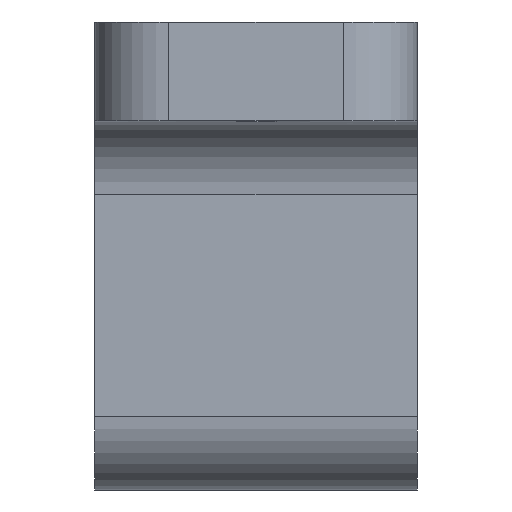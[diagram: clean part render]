
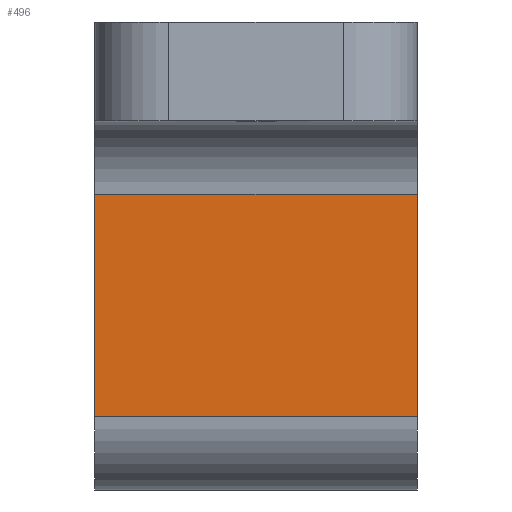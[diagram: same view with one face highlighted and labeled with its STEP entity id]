
A CAD part, front view. The second image highlights one B-rep face of the part: STEP entity #496.
In plain terms, the highlighted planar face has unit normal (0, -1, 0).
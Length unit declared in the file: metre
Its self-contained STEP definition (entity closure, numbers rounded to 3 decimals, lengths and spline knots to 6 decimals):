
#73=ORIENTED_EDGE('',*,*,#219,.F.);
#74=ORIENTED_EDGE('',*,*,#220,.T.);
#75=ORIENTED_EDGE('',*,*,#221,.T.);
#76=ORIENTED_EDGE('',*,*,#222,.T.);
#219=EDGE_CURVE('',#291,#292,#337,.T.);
#220=EDGE_CURVE('',#291,#293,#338,.F.);
#221=EDGE_CURVE('',#293,#294,#339,.T.);
#222=EDGE_CURVE('',#294,#292,#340,.T.);
#291=VERTEX_POINT('',#778);
#292=VERTEX_POINT('',#779);
#293=VERTEX_POINT('',#781);
#294=VERTEX_POINT('',#783);
#337=LINE('',#777,#385);
#338=LINE('',#780,#386);
#339=LINE('',#782,#387);
#340=LINE('',#784,#388);
#385=VECTOR('',#620,1.);
#386=VECTOR('',#621,1.);
#387=VECTOR('',#622,1.);
#388=VECTOR('',#623,1.);
#423=EDGE_LOOP('',(#73,#74,#75,#76));
#453=FACE_BOUND('',#423,.T.);
#482=PLANE('',#541);
#496=ADVANCED_FACE('',(#453),#482,.T.);
#541=AXIS2_PLACEMENT_3D('',#776,#618,#619);
#618=DIRECTION('',(0.,-1.,0.));
#619=DIRECTION('',(0.,0.,-1.));
#620=DIRECTION('',(0.,0.,-1.));
#621=DIRECTION('',(1.,0.,0.));
#622=DIRECTION('',(0.,0.,-1.));
#623=DIRECTION('',(1.,0.,0.));
#776=CARTESIAN_POINT('',(0.0544,-0.066,-0.0115));
#777=CARTESIAN_POINT('',(0.0675,-0.066,-0.0115));
#778=CARTESIAN_POINT('',(0.0675,-0.066,-0.007));
#779=CARTESIAN_POINT('',(0.0675,-0.066,-0.016));
#780=CARTESIAN_POINT('',(0.0544,-0.066,-0.007));
#781=CARTESIAN_POINT('',(0.0544,-0.066,-0.007));
#782=CARTESIAN_POINT('',(0.0544,-0.066,-0.0115));
#783=CARTESIAN_POINT('',(0.0544,-0.066,-0.016));
#784=CARTESIAN_POINT('',(0.0544,-0.066,-0.016));
